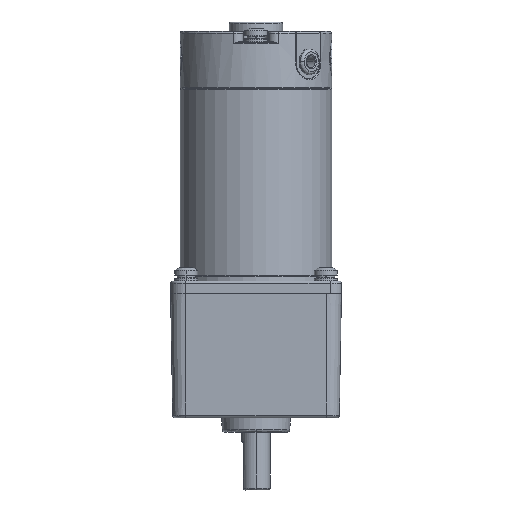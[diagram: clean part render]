
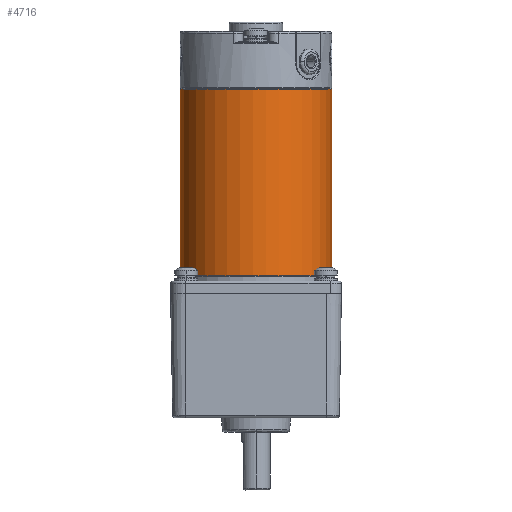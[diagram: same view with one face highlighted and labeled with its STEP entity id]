
A CAD part, left-side view. The second image highlights one B-rep face of the part: STEP entity #4716.
In plain terms, the highlighted cylindrical face has radius 40 mm (diameter 80 mm), a partial arc.
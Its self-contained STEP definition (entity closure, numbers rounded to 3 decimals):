
#363 = CARTESIAN_POINT ( 'NONE',  ( 0., 98.7, 0. ) ) ;
#458 = EDGE_LOOP ( 'NONE', ( #14553, #13933, #15736, #9077, #13195 ) ) ;
#530 = DIRECTION ( 'NONE',  ( 0., 1., 0. ) ) ;
#638 = VECTOR ( 'NONE', #6731, 1000. ) ;
#2520 = VERTEX_POINT ( 'NONE', #7595 ) ;
#3073 = EDGE_CURVE ( 'NONE', #10526, #15746, #5097, .T. ) ;
#3083 = CYLINDRICAL_SURFACE ( 'NONE', #12451, 40. ) ;
#3665 = CARTESIAN_POINT ( 'NONE',  ( 0., 0.3, 40. ) ) ;
#3838 = CARTESIAN_POINT ( 'NONE',  ( 40., 0.3, 0. ) ) ;
#4088 = VERTEX_POINT ( 'NONE', #10287 ) ;
#4448 = DIRECTION ( 'NONE',  ( 0., 1., 0. ) ) ;
#4496 = VECTOR ( 'NONE', #4448, 1000. ) ;
#4716 = ADVANCED_FACE ( 'NONE', ( #10999 ), #3083, .T. ) ;
#5097 = CIRCLE ( 'NONE', #14611, 40. ) ;
#5645 = DIRECTION ( 'NONE',  ( 0., 1., 0. ) ) ;
#5726 = DIRECTION ( 'NONE',  ( 0., 0., 1. ) ) ;
#6731 = DIRECTION ( 'NONE',  ( 0., 1., 0. ) ) ;
#6918 = CARTESIAN_POINT ( 'NONE',  ( 0., 0., 0. ) ) ;
#7157 = CARTESIAN_POINT ( 'NONE',  ( 0., 0.3, 0. ) ) ;
#7595 = CARTESIAN_POINT ( 'NONE',  ( 0., 0.3, -40. ) ) ;
#8499 = AXIS2_PLACEMENT_3D ( 'NONE', #7157, #530, #5726 ) ;
#8618 = VERTEX_POINT ( 'NONE', #9789 ) ;
#9077 = ORIENTED_EDGE ( 'NONE', *, *, #14706, .F. ) ;
#9556 = LINE ( 'NONE', #14383, #638 ) ;
#9789 = CARTESIAN_POINT ( 'NONE',  ( 0., 98.7, 40. ) ) ;
#10287 = CARTESIAN_POINT ( 'NONE',  ( 0., 98.7, -40. ) ) ;
#10526 = VERTEX_POINT ( 'NONE', #3665 ) ;
#10999 = FACE_OUTER_BOUND ( 'NONE', #458, .T. ) ;
#12097 = DIRECTION ( 'NONE',  ( 0., 0., 1. ) ) ;
#12451 = AXIS2_PLACEMENT_3D ( 'NONE', #6918, #5645, #12097 ) ;
#12758 = EDGE_CURVE ( 'NONE', #15746, #2520, #16638, .T. ) ;
#13195 = ORIENTED_EDGE ( 'NONE', *, *, #3073, .T. ) ;
#13417 = DIRECTION ( 'NONE',  ( 0., 1., 0. ) ) ;
#13493 = CARTESIAN_POINT ( 'NONE',  ( 0., 0.3, 0. ) ) ;
#13534 = DIRECTION ( 'NONE',  ( 0., -1., 0. ) ) ;
#13899 = EDGE_CURVE ( 'NONE', #2520, #4088, #9556, .T. ) ;
#13933 = ORIENTED_EDGE ( 'NONE', *, *, #13899, .T. ) ;
#13988 = AXIS2_PLACEMENT_3D ( 'NONE', #363, #13534, #16085 ) ;
#14383 = CARTESIAN_POINT ( 'NONE',  ( 0., 0., -40. ) ) ;
#14553 = ORIENTED_EDGE ( 'NONE', *, *, #12758, .T. ) ;
#14580 = CARTESIAN_POINT ( 'NONE',  ( 0., 0., 40. ) ) ;
#14611 = AXIS2_PLACEMENT_3D ( 'NONE', #13493, #13417, #14933 ) ;
#14706 = EDGE_CURVE ( 'NONE', #10526, #8618, #16099, .T. ) ;
#14803 = CIRCLE ( 'NONE', #13988, 40. ) ;
#14933 = DIRECTION ( 'NONE',  ( 0., 0., 1. ) ) ;
#15736 = ORIENTED_EDGE ( 'NONE', *, *, #15936, .T. ) ;
#15746 = VERTEX_POINT ( 'NONE', #3838 ) ;
#15936 = EDGE_CURVE ( 'NONE', #4088, #8618, #14803, .T. ) ;
#16085 = DIRECTION ( 'NONE',  ( 0., 0., 1. ) ) ;
#16099 = LINE ( 'NONE', #14580, #4496 ) ;
#16638 = CIRCLE ( 'NONE', #8499, 40. ) ;
